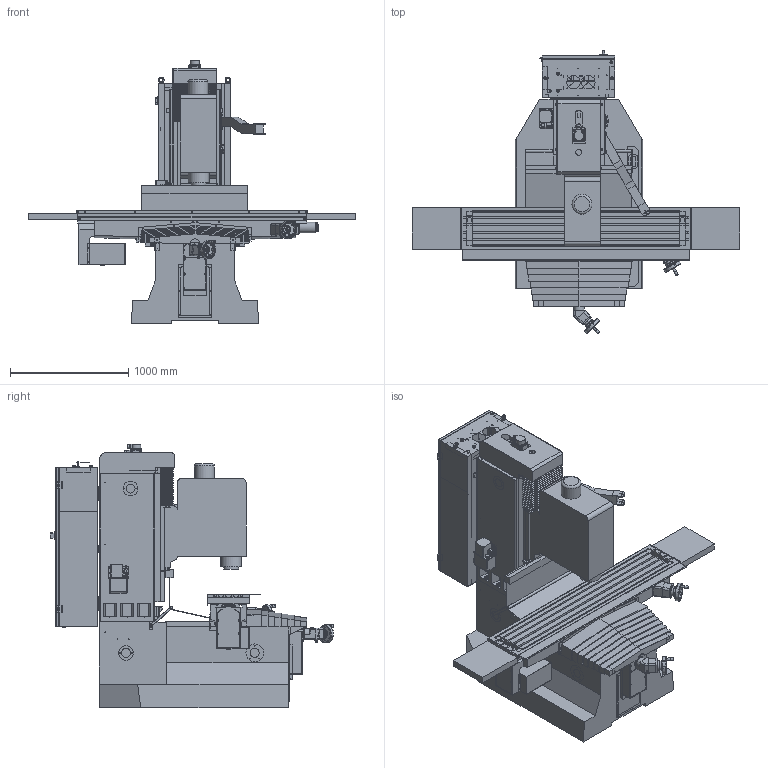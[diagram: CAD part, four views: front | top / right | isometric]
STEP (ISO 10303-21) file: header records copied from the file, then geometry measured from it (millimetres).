
FILE_DESCRIPTION( ( 'Unknown' ), '1' );
FILE_NAME( 'C:/Users/Owner/Documents/FHM7/FHM7.stp', 'Unknown', ( 'Unknown' ), ( 'Unknown' ), 'PSStep 14.0', 'Unknown', ' ' );
FILE_SCHEMA( ( 'AUTOMOTIVE_DESIGN { 1 0 10303 214 1 1 1 1 }' ) );
Length unit declared in the file: millimetre
Products named in the file (183): Assem1; -oa0
Assembly tree (182 placements, depth 2):
  Assem1
    -oa0
    -oa0
    -oa0
    -oa0
    -oa0
    -oa0
    -oa0
    -oa0
    -oa0
    -oa0
    -oa0
    -oa0
    -oa0
    -oa0
    -oa0
    -oa0
    -oa0
    -oa0
    -oa0
    -oa0
    -oa0
    -oa0
    -oa0
    -oa0
    -oa0
    -oa0
    -oa0
    -oa0
    -oa0
    -oa0
    -oa0
    -oa0
    -oa0
    -oa0
    -oa0
    -oa0
    -oa0
    -oa0
    -oa0
    -oa0
    -oa0
    -oa0
    -oa0
    -oa0
    -oa0
    -oa0
    -oa0
    -oa0
    -oa0
    -oa0
    -oa0
    -oa0
    -oa0
    -oa0
    -oa0
    -oa0
    -oa0
    -oa0
    -oa0
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Bounding box: 2770 x 2398.09 x 2229.75 mm (x, y, z)
Surface area: 32320147.7 mm2 (no closed solid volume)
Topology: 0 solids, 1830 shells, 1831 faces, 12377 edges, 12193 vertices
Faces by surface type: plane 1285, cylinder 430, cone 78, torus 21, bspline 17
Full cylindrical faces by diameter (mm): 1.6 x4, 8.89 x1, 9 x2, 9.652 x2, 10.414 x2, 10.678 x1, 10.693 x2, 11 x2, 14.287 x8, 14.288 x6, 14.935 x1, 15.262 x1, 16.2 x2, 17.78 x1, 18.618 x2, 20 x8, 21.438 x1, 21.5 x9, 23.139 x2, 23.813 x1, 23.876 x2, 24 x6, 25 x1, 26.67 x3, 30 x4, 31.75 x1, 31.95 x1, 35.306 x1, 38 x1, 38.1 x2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
Entity records: 129834 total; most frequent: CARTESIAN_POINT 36399, DIRECTION 18311, ORIENTED_EDGE 12075, EDGE_CURVE 12075, VERTEX_POINT 12075, LINE 8151, VECTOR 8151, AXIS2_PLACEMENT_3D 5080
